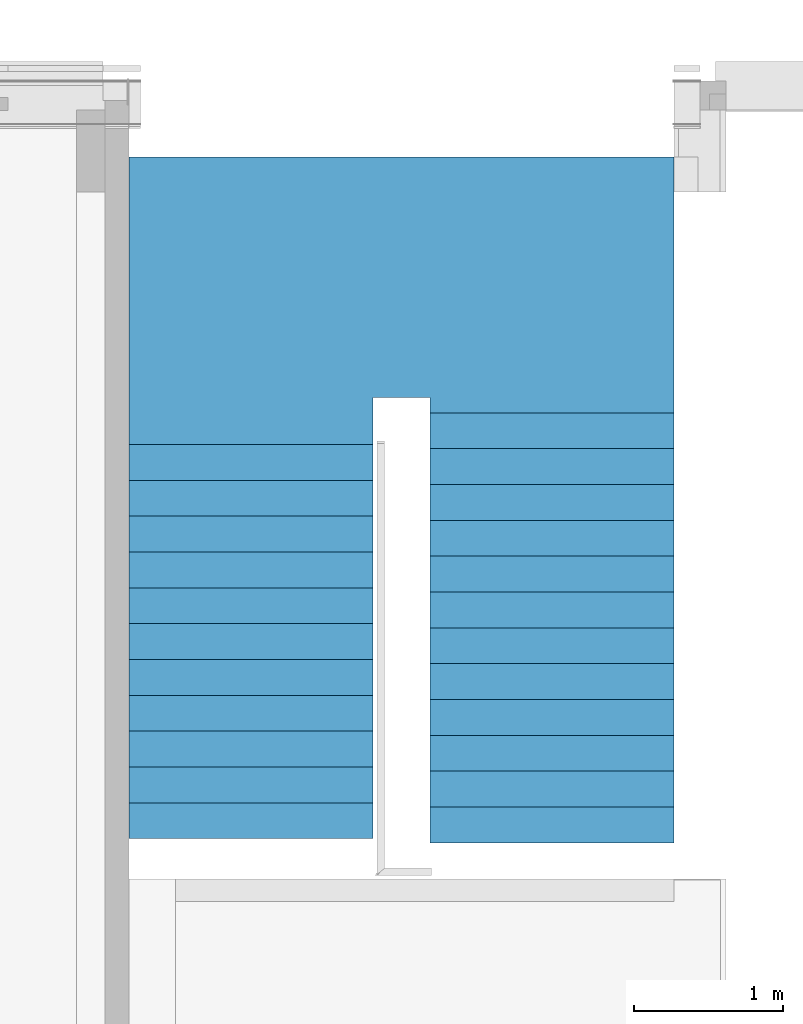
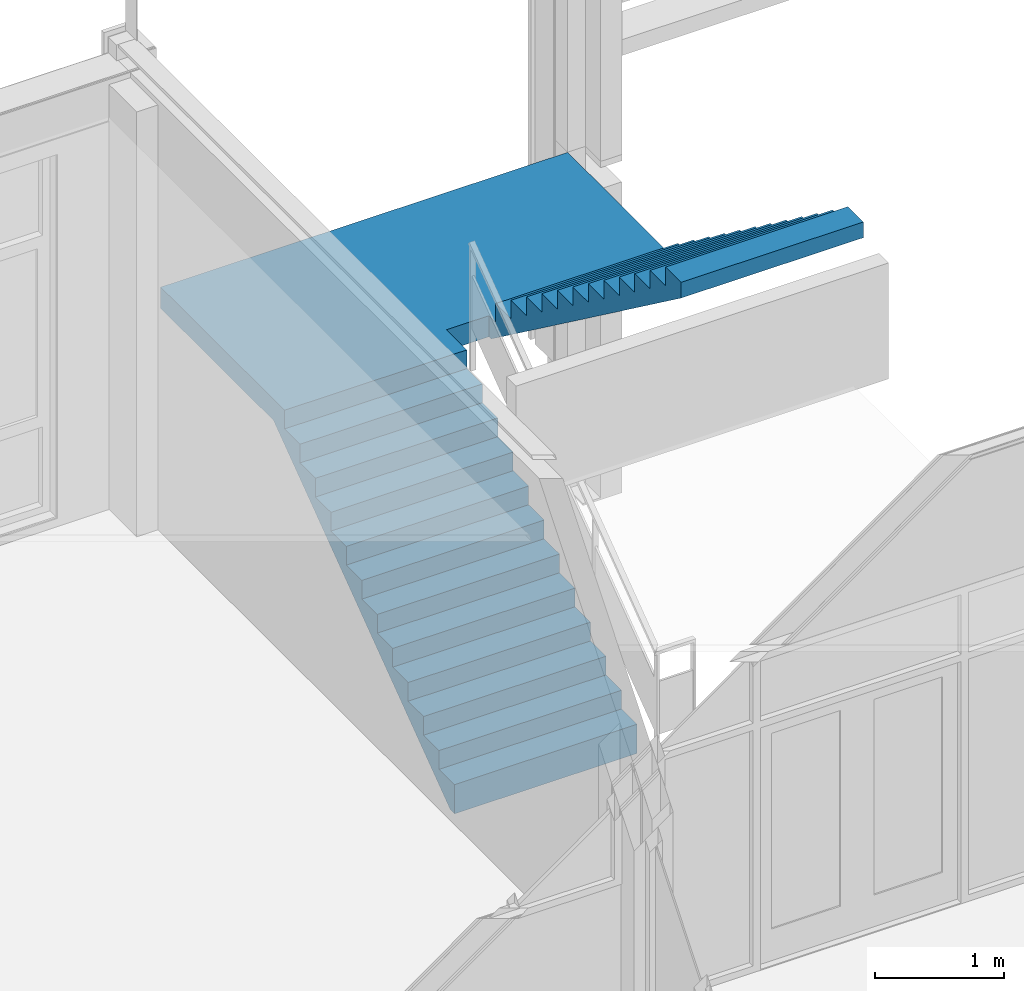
# One storey, part 34 of 94: 1 stair.
"""IFC2X3 building model written with IfcOpenShell, lengths in millimetres."""

from ifc_helpers import new_model, entity, si_unit, converted_unit, derived_unit, money_unit, direction, frame, origin_with_axes, place, context, subcontext, project, spatial, faceted_brep, material, material_list, element, save


model = new_model("IFC2X3")

# Units and contexts
model_context = context("Model", 3, precision=0.01, world=origin_with_axes(), true_north=direction((0.0, 1.0)))
body_context = subcontext(model_context, "Body", "Model", "MODEL_VIEW")
ifc_project = project(units=[si_unit("LENGTHUNIT", "METRE", prefix="MILLI"), si_unit("AREAUNIT", "SQUARE_METRE"), si_unit("VOLUMEUNIT", "CUBIC_METRE"), converted_unit("PLANEANGLEUNIT", "DEGREE", entity("IfcPlaneAngleMeasure", 0.0174532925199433), si_unit("PLANEANGLEUNIT", "RADIAN"), dimensions=[0, 0, 0, 0, 0, 0, 0]), money_unit("EUR"), converted_unit("TIMEUNIT", "Year", entity("IfcTimeMeasure", 31557600.0), si_unit("TIMEUNIT", "SECOND"), dimensions=[0, 0, 1, 0, 0, 0, 0]), si_unit("MASSUNIT", "GRAM", prefix="KILO"), si_unit("THERMODYNAMICTEMPERATUREUNIT", "DEGREE_CELSIUS"), si_unit("LUMINOUSINTENSITYUNIT", "LUMEN"), si_unit("ENERGYUNIT", "JOULE", prefix="MEGA"), derived_unit("THERMALCONDUCTANCEUNIT", [(si_unit("POWERUNIT", "WATT"), 1), (si_unit("LENGTHUNIT", "METRE"), -1), (si_unit("THERMODYNAMICTEMPERATUREUNIT", "KELVIN"), -1)]), derived_unit("SPECIFICHEATCAPACITYUNIT", [(si_unit("ENERGYUNIT", "JOULE"), 1), (si_unit("MASSUNIT", "GRAM", prefix="KILO"), -1), (si_unit("THERMODYNAMICTEMPERATUREUNIT", "KELVIN"), -1)]), derived_unit("MASSDENSITYUNIT", [(si_unit("MASSUNIT", "GRAM", prefix="KILO"), 1), (si_unit("VOLUMEUNIT", "CUBIC_METRE"), -1)])], contexts=[model_context])

# Site, building, storey
site_placement = place(None, origin_with_axes())
site = spatial("IfcSite", under=ifc_project, at=site_placement, Name="<site naam>", CompositionType="ELEMENT")
building_placement = place(site_placement, origin_with_axes())
building = spatial("IfcBuilding", under=site, at=building_placement, Name="<Naam gebouw>", CompositionType="ELEMENT")
storey_placement = place(building_placement, frame((0.0, 0.0, 4250.0), z_axis=(0.0, 0.0, 1.0), x_axis=(1.0, 0.0, 0.0)))
storey = spatial("IfcBuildingStorey", under=building, at=storey_placement, Name="01 1e verdieping", CompositionType="ELEMENT", Elevation=4250.0)

# Stair
ifc_material = material(Name="beton")
ifc_material_list = material_list([ifc_material, ifc_material, ifc_material])
stair_placement = place(storey_placement, frame((49810.00000000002, 15167.77936590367, 0.0), z_axis=(0.0, 0.0, 1.0), x_axis=(1.0, 0.0, 0.0)))
element("IfcStair", 1, at=stair_placement, inside=storey, material=ifc_material_list, Name="24_Trap_", ShapeType="NOTDEFINED", context=body_context, shape_type="Brep", body=[
    faceted_brep([(-1635.000000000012, 2592.329985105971, 1925.0), (-1634.999999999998, 2592.329993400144, 1947.916666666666), (0.0, 2592.329993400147, 1947.916666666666), (-1.117588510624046e-05, 2592.329985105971, 1925.0), (-1635.000000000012, 2763.385581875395, 1925.0), (-1635.000000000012, 2592.329985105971, 1798.787096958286), (-1634.999999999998, 2512.329993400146, 1739.759325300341), (-1634.999999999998, 2432.329993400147, 1680.731547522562), (-1634.999999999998, 2352.329993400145, 1621.703769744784), (-1634.999999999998, 2272.329993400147, 1562.675991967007), (-1634.999999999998, 2192.329993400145, 1503.648214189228), (-1634.999999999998, 2112.329993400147, 1444.620436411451), (-1634.999999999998, 2032.329993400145, 1385.592658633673), (-1634.999999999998, 1952.329993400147, 1326.564880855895), (-1634.999999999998, 1872.329993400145, 1267.537103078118), (-1634.999999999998, 1792.329993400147, 1208.50932530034), (-1634.999999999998, 1712.329993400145, 1149.481547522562), (-1634.999999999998, 1632.329993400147, 1090.453769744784), (-1634.999999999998, 1552.329993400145, 1031.425991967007), (-1634.999999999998, 1472.329993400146, 972.3982141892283), (-1634.999999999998, 1392.329993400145, 913.3704364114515), (-1634.999999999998, 1312.329993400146, 854.3426586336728), (-1634.999999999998, 1232.329993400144, 795.314880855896), (-1634.999999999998, 1152.329993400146, 736.2871030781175), (-1634.999999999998, 1072.329993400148, 677.2593253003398), (-1634.999999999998, 992.3299934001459, 618.2315475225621), (-1634.999999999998, 912.3299934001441, 559.2037697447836), (-1634.999999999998, 832.3299934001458, 500.1759919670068), (-1634.999999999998, 752.3299934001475, 441.1482141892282), (-1634.999999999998, 672.3299934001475, 382.1204364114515), (-1634.999999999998, 592.3299934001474, 323.0926586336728), (-1634.999999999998, 512.3299934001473, 264.0648808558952), (-1634.999999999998, 432.3299934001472, 205.0371030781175), (-1634.999999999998, 352.3299934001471, 146.0093253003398), (-1634.999999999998, 272.3299934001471, 86.98154752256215), (-1634.999999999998, 192.329993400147, 27.95376974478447), (-1634.999999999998, 112.3299934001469, -31.07400803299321), (-1634.999999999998, 32.32999340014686, -90.10178581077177), (-1634.999999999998, 18.91500193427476, -99.99999999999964), (-1634.999999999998, -47.67000659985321, -99.99999999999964), (-1634.999999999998, -47.67000659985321, 177.083333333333), (-1634.999999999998, 192.329993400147, 177.0833333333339), (-1634.999999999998, 192.329993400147, 354.166666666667), (-1634.999999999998, 432.3299934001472, 354.166666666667), (-1634.999999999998, 432.3299934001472, 531.25), (-1634.999999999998, 672.3299934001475, 531.25), (-1634.999999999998, 672.3299934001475, 708.333333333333), (-1634.999999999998, 912.3299934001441, 708.333333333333), (-1634.999999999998, 912.3299934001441, 885.416666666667), (-1634.999999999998, 1152.329993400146, 885.416666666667), (-1634.999999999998, 1152.329993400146, 1062.5), (-1634.999999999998, 1392.329993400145, 1062.5), (-1634.999999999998, 1392.329993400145, 1239.583333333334), (-1634.999999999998, 1632.329993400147, 1239.583333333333), (-1634.999999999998, 1632.329993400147, 1416.666666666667), (-1634.999999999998, 1872.329993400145, 1416.666666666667), (-1634.999999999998, 1872.329993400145, 1593.75), (-1634.999999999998, 2112.329993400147, 1593.75), (-1634.999999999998, 2112.329993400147, 1770.833333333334), (-1634.999999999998, 2352.329993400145, 1770.833333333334), (-1634.999999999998, 2352.329993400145, 1947.916666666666), (0.0, 2352.329993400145, 1947.916666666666), (-1.117588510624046e-05, 2592.329985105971, 1798.787096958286), (-1.117588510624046e-05, 2763.385581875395, 1925.0), (0.0, 2352.329993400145, 1770.833333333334), (0.0, 2112.329993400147, 1770.833333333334), (0.0, 2112.329993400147, 1593.75), (0.0, 1872.329993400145, 1593.75), (0.0, 1872.329993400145, 1416.666666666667), (0.0, 1632.329993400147, 1416.666666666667), (0.0, 1632.329993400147, 1239.583333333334), (0.0, 1392.329993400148, 1239.583333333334), (0.0, 1392.329993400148, 1062.5), (0.0, 1152.329993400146, 1062.5), (0.0, 1152.329993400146, 885.416666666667), (0.0, 912.3299934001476, 885.416666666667), (0.0, 912.3299934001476, 708.333333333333), (0.0, 672.3299934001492, 708.333333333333), (0.0, 672.3299934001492, 531.25), (0.0, 432.329993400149, 531.25), (0.0, 432.329993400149, 354.1666666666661), (0.0, 192.3299934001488, 354.166666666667), (0.0, 192.3299934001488, 177.083333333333), (0.0, -47.67000659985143, 177.083333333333), (0.0, -47.67000659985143, -99.99999999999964), (0.0, 18.91500193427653, -99.99999999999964), (0.0, 32.32999340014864, -90.10178581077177), (0.0, 112.3299934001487, -31.07400803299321), (0.0, 192.3299934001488, 27.95376974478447), (0.0, 272.3299934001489, 86.98154752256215), (0.0, 352.3299934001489, 146.0093253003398), (0.0, 432.329993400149, 205.0371030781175), (0.0, 512.3299934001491, 264.0648808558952), (0.0, 592.3299934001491, 323.0926586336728), (0.0, 672.3299934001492, 382.1204364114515), (0.0, 752.3299934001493, 441.1482141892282), (0.0, 832.3299934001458, 500.1759919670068), (0.0, 912.3299934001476, 559.2037697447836), (0.0, 992.3299934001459, 618.2315475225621), (0.0, 1072.329993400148, 677.2593253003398), (0.0, 1152.329993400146, 736.2871030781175), (0.0, 1232.329993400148, 795.3148808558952), (0.0, 1312.329993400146, 854.3426586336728), (0.0, 1392.329993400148, 913.3704364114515), (0.0, 1472.329993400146, 972.3982141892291), (0.0, 1552.329993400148, 1031.425991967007), (0.0, 1632.329993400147, 1090.453769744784), (0.0, 1712.329993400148, 1149.481547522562), (0.0, 1792.329993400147, 1208.50932530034), (0.0, 1872.329993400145, 1267.537103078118), (0.0, 1952.329993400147, 1326.564880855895), (0.0, 2032.329993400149, 1385.592658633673), (0.0, 2112.329993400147, 1444.620436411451), (0.0, 2192.329993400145, 1503.648214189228), (0.0, 2272.329993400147, 1562.675991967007), (0.0, 2352.329993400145, 1621.703769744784), (0.0, 2432.329993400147, 1680.731547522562), (0.0, 2512.329993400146, 1739.75932530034)], [[[0, 1, 2, 3]], [[0, 4, 5, 6, 7, 8, 9, 10, 11, 12, 13, 14, 15, 16, 17, 18, 19, 20, 21, 22, 23, 24, 25, 26, 27, 28, 29, 30, 31, 32, 33, 34, 35, 36, 37, 38, 39, 40, 41, 42, 43, 44, 45, 46, 47, 48, 49, 50, 51, 52, 53, 54, 55, 56, 57, 58, 59, 60, 1]], [[60, 61, 2, 1]], [[62, 63, 3, 2, 61, 64, 65, 66, 67, 68, 69, 70, 71, 72, 73, 74, 75, 76, 77, 78, 79, 80, 81, 82, 83, 84, 85, 86, 87, 88, 89, 90, 91, 92, 93, 94, 95, 96, 97, 98, 99, 100, 101, 102, 103, 104, 105, 106, 107, 108, 109, 110, 111, 112, 113, 114, 115, 116, 117]], [[3, 63, 4, 0]], [[5, 4, 63, 62, 117, 6]], [[7, 6, 117, 116]], [[8, 7, 116, 115]], [[9, 8, 115, 114]], [[10, 9, 114, 113]], [[11, 10, 113, 112]], [[12, 11, 112, 111]], [[13, 12, 111, 110]], [[14, 13, 110, 109]], [[15, 14, 109, 108]], [[16, 15, 108, 107]], [[17, 16, 107, 106]], [[18, 17, 106, 105]], [[19, 18, 105, 104]], [[20, 19, 104, 103]], [[21, 20, 103, 102]], [[22, 21, 102, 101]], [[23, 22, 101, 100]], [[24, 23, 100, 99]], [[25, 24, 99, 98]], [[26, 25, 98, 97]], [[27, 26, 97, 96]], [[28, 27, 96, 95]], [[29, 28, 95, 94]], [[30, 29, 94, 93]], [[31, 30, 93, 92]], [[32, 31, 92, 91]], [[33, 32, 91, 90]], [[34, 33, 90, 89]], [[35, 34, 89, 88]], [[36, 35, 88, 87]], [[37, 36, 87, 86]], [[38, 37, 86, 85]], [[39, 38, 85, 84]], [[84, 83, 40, 39]], [[83, 82, 41, 40]], [[42, 41, 82, 81]], [[81, 80, 43, 42]], [[44, 43, 80, 79]], [[79, 78, 45, 44]], [[46, 45, 78, 77]], [[77, 76, 47, 46]], [[48, 47, 76, 75]], [[75, 74, 49, 48]], [[50, 49, 74, 73]], [[73, 72, 51, 50]], [[52, 51, 72, 71]], [[71, 70, 53, 52]], [[54, 53, 70, 69]], [[69, 68, 55, 54]], [[56, 55, 68, 67]], [[67, 66, 57, 56]], [[58, 57, 66, 65]], [[65, 64, 59, 58]], [[60, 59, 64, 61]]]),
    faceted_brep([(2015.000000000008, 2873.250515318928, 1925.0), (2015.000000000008, 4517.307725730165, 1925.0), (2015.000000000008, 4517.307725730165, 2125.0), (2015.000000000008, 2873.250515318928, 2125.0), (380.0000111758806, 2873.250515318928, 1925.0), (380.0000111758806, 2907.31163579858, 1925.0), (-1.117588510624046e-05, 2907.31163579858, 1925.0), (-1.117588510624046e-05, 2592.329985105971, 1925.0), (-1635.000000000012, 2592.329985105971, 1925.0), (-1635.000000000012, 4517.307725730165, 1925.0), (-1635.000000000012, 4517.307725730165, 2125.0), (-1635.000000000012, 2592.329985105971, 2125.0), (-1.117588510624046e-05, 2592.329985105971, 2125.0), (-1.117588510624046e-05, 2907.31163579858, 2125.0), (380.0000111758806, 2907.31163579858, 2125.0), (380.0000111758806, 2873.250515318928, 2125.0)], [[[0, 1, 2, 3]], [[4, 5, 6, 7, 8, 9, 1, 0]], [[10, 2, 1, 9]], [[3, 2, 10, 11, 12, 13, 14, 15]], [[15, 4, 0, 3]], [[15, 14, 5, 4]], [[14, 13, 6, 5]], [[13, 12, 7, 6]], [[12, 11, 8, 7]], [[11, 10, 9, 8]]]),
    faceted_brep([(380.0000000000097, 2804.30609777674, 2302.083333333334), (2015.000000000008, 2804.306097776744, 2302.083333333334), (2015.000000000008, 2804.306097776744, 2125.0), (380.0000111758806, 2804.30609777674, 2125.0), (380.0000000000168, 2564.306073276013, 2302.083333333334), (2015.000000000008, 2564.306073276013, 2302.083333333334), (2015.000000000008, 2873.250515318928, 1925.000000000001), (2015.000000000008, 2873.250515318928, 2125.0), (2015.000000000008, 2564.306073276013, 2479.166666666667), (2015.000000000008, 2324.306073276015, 2479.166666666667), (2015.000000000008, 2324.306073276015, 2656.25), (2015.000000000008, 2084.306073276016, 2656.25), (2015.000000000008, 2084.306073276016, 2833.333333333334), (2015.000000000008, 1844.306073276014, 2833.333333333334), (2015.000000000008, 1844.306073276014, 3010.416666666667), (2015.000000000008, 1604.306073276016, 3010.416666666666), (2015.000000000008, 1604.306073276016, 3187.5), (2015.000000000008, 1364.306073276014, 3187.5), (2015.000000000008, 1364.306073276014, 3364.583333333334), (2015.000000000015, 1124.306073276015, 3364.583333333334), (2015.000000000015, 1124.306073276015, 3541.666666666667), (2015.000000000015, 884.3060732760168, 3541.666666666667), (2015.000000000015, 884.3060732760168, 3718.75), (2015.000000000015, 644.3060732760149, 3718.75), (2015.000000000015, 644.3060732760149, 3895.833333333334), (2015.000000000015, 404.3060732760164, 3895.833333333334), (2015.000000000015, 404.3060732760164, 4072.916666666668), (2015.000000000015, 164.3060732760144, 4072.916666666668), (2015.000000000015, 164.3060732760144, 4250.0), (2015.000000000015, -75.69392672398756, 4250.0), (2015.000000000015, -75.69392672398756, 4100.870436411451), (2015.000000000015, 4.306073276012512, 4041.842658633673), (2015.000000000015, 84.30607327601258, 3982.814880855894), (2015.000000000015, 164.3060732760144, 3923.787103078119), (2015.000000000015, 244.3060732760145, 3864.759325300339), (2015.000000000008, 324.3060732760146, 3805.731547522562), (2015.000000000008, 404.3060732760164, 3746.703769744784), (2015.000000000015, 484.3060732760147, 3687.675991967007), (2015.000000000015, 564.3060732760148, 3628.648214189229), (2015.000000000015, 644.3060732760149, 3569.62043641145), (2015.000000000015, 724.3060732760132, 3510.592658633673), (2015.000000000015, 804.306073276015, 3451.564880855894), (2015.000000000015, 884.3060732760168, 3392.537103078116), (2015.000000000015, 964.3060732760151, 3333.509325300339), (2015.000000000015, 1044.306073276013, 3274.481547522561), (2015.000000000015, 1124.306073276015, 3215.45376974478), (2015.000000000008, 1204.306073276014, 3156.425991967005), (2015.000000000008, 1284.306073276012, 3097.398214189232), (2015.000000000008, 1364.306073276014, 3038.370436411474), (2015.000000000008, 1444.306073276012, 2979.342658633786), (2015.000000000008, 1524.306073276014, 2920.314880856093), (2015.000000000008, 1604.306073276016, 2861.287103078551), (2015.000000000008, 1684.306073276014, 2802.259325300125), (2015.000000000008, 1764.306073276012, 2743.231547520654), (2015.000000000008, 1844.306073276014, 2684.203769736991), (2015.000000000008, 1924.306073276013, 2625.175991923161), (2015.000000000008, 2004.306073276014, 2566.148214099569), (2015.000000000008, 2084.306073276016, 2507.120436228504), (2015.000000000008, 2164.306073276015, 2448.092658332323), (2015.000000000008, 2244.306073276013, 2389.064880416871), (2015.000000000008, 2324.306073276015, 2330.037102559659), (2015.000000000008, 2404.306073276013, 2271.009326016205), (2015.000000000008, 2484.306073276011, 2211.98154948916), (2015.000000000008, 2564.306073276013, 2152.953773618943), (2015.000000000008, 2644.306081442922, 2093.925995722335), (2015.000000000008, 2724.306089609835, 2034.898218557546), (2015.000000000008, 2804.306097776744, 1975.870441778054), (380.0000111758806, 2873.250515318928, 2125.0), (380.0000111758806, 2873.250515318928, 1925.0), (380.0000111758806, 2804.30609777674, 1975.870441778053), (380.0000000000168, 2724.306089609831, 2034.898218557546), (380.0000000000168, 2644.306081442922, 2093.925995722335), (380.0000000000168, 2564.306073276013, 2152.953773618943), (380.0000000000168, 2484.306073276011, 2211.98154948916), (380.0000000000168, 2404.306073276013, 2271.009326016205), (380.0000000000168, 2324.306073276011, 2330.037102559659), (380.0000000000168, 2244.306073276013, 2389.064880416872), (380.0000000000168, 2164.306073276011, 2448.092658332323), (380.0000000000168, 2084.306073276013, 2507.120436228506), (380.0000000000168, 2004.306073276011, 2566.148214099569), (380.0000000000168, 1924.306073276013, 2625.175991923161), (380.0000000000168, 1844.306073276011, 2684.203769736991), (380.0000000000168, 1764.306073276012, 2743.231547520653), (380.0000000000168, 1684.30607327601, 2802.259325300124), (380.0000000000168, 1604.306073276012, 2861.287103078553), (380.0000000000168, 1524.30607327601, 2920.314880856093), (380.0000000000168, 1444.306073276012, 2979.342658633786), (380.0000000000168, 1364.30607327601, 3038.370436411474), (380.0000000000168, 1284.306073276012, 3097.398214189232), (380.0000000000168, 1204.30607327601, 3156.425991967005), (380.0000000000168, 1124.306073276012, 3215.453769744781), (380.0000000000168, 1044.306073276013, 3274.481547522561), (380.0000000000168, 964.3060732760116, 3333.509325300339), (380.0000000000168, 884.3060732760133, 3392.537103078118), (380.0000000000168, 804.3060732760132, 3451.564880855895), (380.0000000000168, 724.3060732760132, 3510.592658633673), (380.0000000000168, 644.3060732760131, 3569.620436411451), (380.0000000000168, 564.306073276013, 3628.648214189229), (380.0000000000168, 484.3060732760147, 3687.675991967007), (380.0000000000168, 404.3060732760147, 3746.703769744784), (380.0000000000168, 324.3060732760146, 3805.731547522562), (380.0000000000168, 244.3060732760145, 3864.759325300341), (380.0000000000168, 164.3060732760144, 3923.787103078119), (380.0000000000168, 84.30607327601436, 3982.814880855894), (380.0000000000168, 4.306073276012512, 4041.842658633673), (380.0000000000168, -75.69392672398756, 4100.870436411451), (380.0000000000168, -75.69392672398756, 4250.0), (380.0000000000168, 164.3060732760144, 4250.0), (380.0000000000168, 164.3060732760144, 4072.916666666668), (380.0000000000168, 404.3060732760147, 4072.916666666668), (380.0000000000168, 404.3060732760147, 3895.833333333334), (380.0000000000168, 644.3060732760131, 3895.833333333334), (380.0000000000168, 644.3060732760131, 3718.75), (380.0000000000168, 884.3060732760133, 3718.75), (380.0000000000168, 884.3060732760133, 3541.666666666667), (380.0000000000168, 1124.306073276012, 3541.666666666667), (380.0000000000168, 1124.306073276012, 3364.583333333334), (380.0000000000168, 1364.30607327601, 3364.583333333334), (380.0000000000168, 1364.30607327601, 3187.5), (380.0000000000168, 1604.306073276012, 3187.5), (380.0000000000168, 1604.306073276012, 3010.416666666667), (380.0000000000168, 1844.306073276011, 3010.416666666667), (380.0000000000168, 1844.306073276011, 2833.333333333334), (380.0000000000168, 2084.306073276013, 2833.333333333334), (380.0000000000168, 2084.306073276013, 2656.25), (380.0000000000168, 2324.306073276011, 2656.25), (380.0000000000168, 2324.306073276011, 2479.166666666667), (380.0000000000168, 2564.306073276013, 2479.166666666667)], [[[0, 1, 2, 3]], [[4, 5, 1, 0]], [[6, 7, 2, 1, 5, 8, 9, 10, 11, 12, 13, 14, 15, 16, 17, 18, 19, 20, 21, 22, 23, 24, 25, 26, 27, 28, 29, 30, 31, 32, 33, 34, 35, 36, 37, 38, 39, 40, 41, 42, 43, 44, 45, 46, 47, 48, 49, 50, 51, 52, 53, 54, 55, 56, 57, 58, 59, 60, 61, 62, 63, 64, 65, 66]], [[7, 67, 3, 2]], [[67, 68, 69, 70, 71, 72, 73, 74, 75, 76, 77, 78, 79, 80, 81, 82, 83, 84, 85, 86, 87, 88, 89, 90, 91, 92, 93, 94, 95, 96, 97, 98, 99, 100, 101, 102, 103, 104, 105, 106, 107, 108, 109, 110, 111, 112, 113, 114, 115, 116, 117, 118, 119, 120, 121, 122, 123, 124, 125, 126, 127, 4, 0, 3]], [[5, 4, 127, 8]], [[68, 67, 7, 6]], [[126, 9, 8, 127]], [[9, 126, 125, 10]], [[124, 11, 10, 125]], [[11, 124, 123, 12]], [[122, 13, 12, 123]], [[13, 122, 121, 14]], [[120, 15, 14, 121]], [[15, 120, 119, 16]], [[118, 17, 16, 119]], [[17, 118, 117, 18]], [[116, 19, 18, 117]], [[19, 116, 115, 20]], [[114, 21, 20, 115]], [[21, 114, 113, 22]], [[112, 23, 22, 113]], [[23, 112, 111, 24]], [[110, 25, 24, 111]], [[25, 110, 109, 26]], [[108, 27, 26, 109]], [[27, 108, 107, 28]], [[107, 106, 29, 28]], [[106, 105, 30, 29]], [[104, 31, 30, 105]], [[103, 32, 31, 104]], [[102, 33, 32, 103]], [[101, 34, 33, 102]], [[100, 35, 34, 101]], [[99, 36, 35, 100]], [[98, 37, 36, 99]], [[97, 38, 37, 98]], [[96, 39, 38, 97]], [[95, 40, 39, 96]], [[94, 41, 40, 95]], [[93, 42, 41, 94]], [[92, 43, 42, 93]], [[91, 44, 43, 92]], [[90, 45, 44, 91]], [[89, 46, 45, 90]], [[88, 47, 46, 89]], [[87, 48, 47, 88]], [[86, 49, 48, 87]], [[85, 50, 49, 86]], [[84, 51, 50, 85]], [[83, 52, 51, 84]], [[82, 53, 52, 83]], [[81, 54, 53, 82]], [[80, 55, 54, 81]], [[79, 56, 55, 80]], [[78, 57, 56, 79]], [[77, 58, 57, 78]], [[76, 59, 58, 77]], [[75, 60, 59, 76]], [[74, 61, 60, 75]], [[73, 62, 61, 74]], [[72, 63, 62, 73]], [[71, 64, 63, 72]], [[70, 65, 64, 71]], [[65, 70, 69, 66]], [[68, 6, 66, 69]]]),
])

save(model, "model.ifc")
